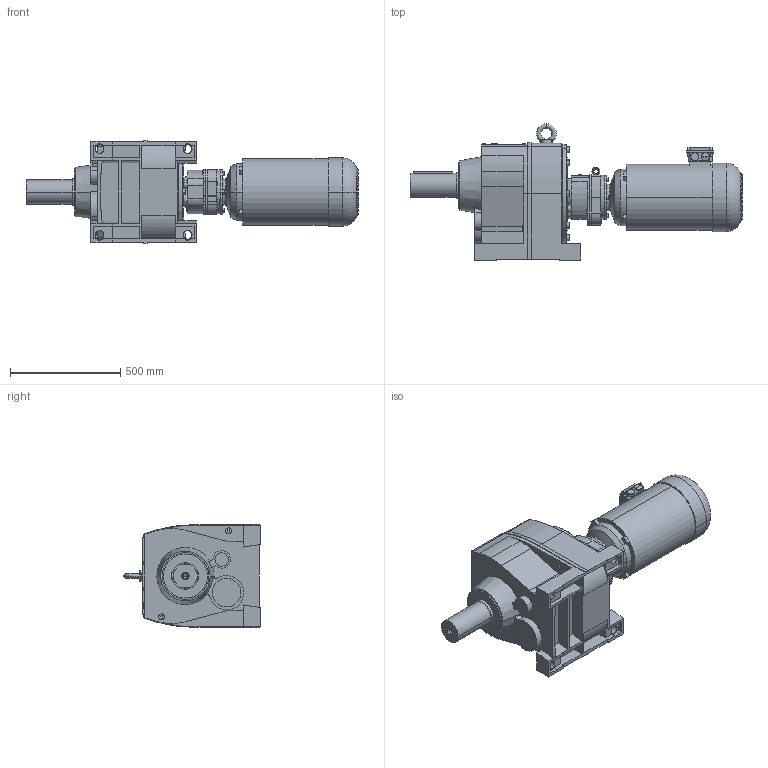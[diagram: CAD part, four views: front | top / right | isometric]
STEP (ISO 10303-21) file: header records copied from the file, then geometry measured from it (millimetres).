
FILE_DESCRIPTION(('STEP AP214'),'1');
FILE_NAME('STEP-File.stp','2018-01-01T00:00:00',(' '),('KEB'),' ','KEB-DRIVE',' ');
FILE_SCHEMA(('AUTOMOTIVE_DESIGN { 1 0 10303 214 1 1 1 1 }'));
Length unit declared in the file: millimetre
Products named in the file (11): g9a; w9_we_110x210; fp4-c9; g4b; cs4; dm160_kkn; kk10; PLUG_M32; SCREW-PLUG_M32; ndm160; G93G42A DM160MB4§CAD13
Assembly tree (10 placements, depth 2):
  G93G42A DM160MB4§CAD13
    g9a
    w9_we_110x210
    fp4-c9
    g4b
    cs4
    dm160_kkn
    kk10
    PLUG_M32
    SCREW-PLUG_M32
    ndm160
Bounding box: 1508.99 x 620 x 466 mm (x, y, z)
Volume: 135671909.2 mm3; surface area: 3303367.4 mm2
Topology: 10 solids, 10 shells, 578 faces, 1457 edges, 960 vertices
Faces by surface type: plane 341, cylinder 169, cone 31, torus 23, bspline 10, extrusion 2, revolution 2
Entity records: 26802 total; most frequent: CARTESIAN_POINT 13140, ORIENTED_EDGE 2910, DIRECTION 2521, EDGE_CURVE 1455, VERTEX_POINT 960, VECTOR 879, LINE 877, AXIS2_PLACEMENT_3D 820
